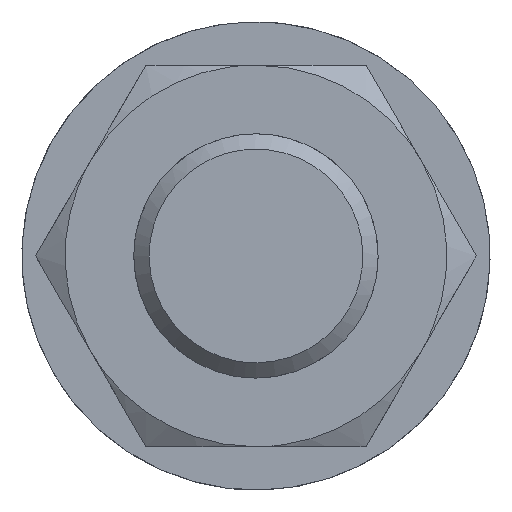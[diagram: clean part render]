
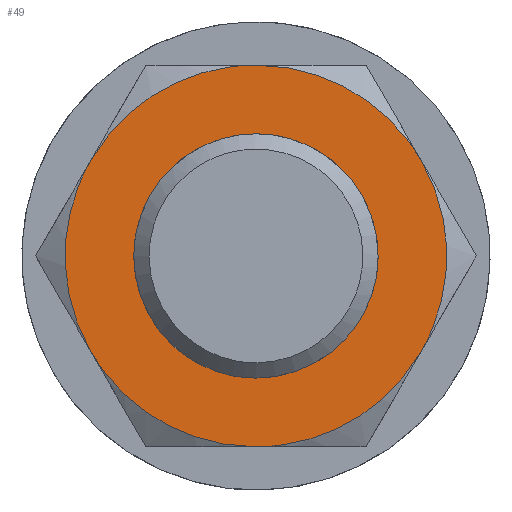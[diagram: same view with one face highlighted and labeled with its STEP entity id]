
A CAD part, left-side view. The second image highlights one B-rep face of the part: STEP entity #49.
In plain terms, the highlighted planar face has unit normal (-1, 0, 0).
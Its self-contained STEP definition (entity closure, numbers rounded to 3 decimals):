
#40=FACE_BOUND('',#138,.T.);
#49=ADVANCED_FACE('',(#92,#40),#663,.T.);
#92=FACE_OUTER_BOUND('',#137,.T.);
#137=EDGE_LOOP('',(#202,#203,#204,#205,#206,#207));
#138=EDGE_LOOP('',(#208,#209));
#202=ORIENTED_EDGE('',*,*,#405,.F.);
#203=ORIENTED_EDGE('',*,*,#407,.F.);
#204=ORIENTED_EDGE('',*,*,#408,.F.);
#205=ORIENTED_EDGE('',*,*,#406,.F.);
#206=ORIENTED_EDGE('',*,*,#404,.F.);
#207=ORIENTED_EDGE('',*,*,#403,.F.);
#208=ORIENTED_EDGE('',*,*,#393,.F.);
#209=ORIENTED_EDGE('',*,*,#391,.F.);
#391=EDGE_CURVE('',#608,#598,#518,.T.);
#393=EDGE_CURVE('',#598,#608,#519,.T.);
#403=EDGE_CURVE('',#602,#603,#527,.T.);
#404=EDGE_CURVE('',#603,#607,#528,.T.);
#405=EDGE_CURVE('',#604,#602,#529,.T.);
#406=EDGE_CURVE('',#607,#606,#530,.T.);
#407=EDGE_CURVE('',#605,#604,#531,.T.);
#408=EDGE_CURVE('',#606,#605,#532,.T.);
#518=(
BOUNDED_CURVE()
B_SPLINE_CURVE(2,(#1166,#1167,#1168,#1169,#1170),.UNSPECIFIED.,.F.,.F.)
B_SPLINE_CURVE_WITH_KNOTS((3,2,3),(75.398,113.097,150.796),
 .UNSPECIFIED.)
CURVE()
GEOMETRIC_REPRESENTATION_ITEM()
RATIONAL_B_SPLINE_CURVE((1.,0.707,1.,0.707,1.))
REPRESENTATION_ITEM('')
);
#519=(
BOUNDED_CURVE()
B_SPLINE_CURVE(2,(#1173,#1174,#1175,#1176,#1177),.UNSPECIFIED.,.F.,.F.)
B_SPLINE_CURVE_WITH_KNOTS((3,2,3),(0.,37.699,75.398),
 .UNSPECIFIED.)
CURVE()
GEOMETRIC_REPRESENTATION_ITEM()
RATIONAL_B_SPLINE_CURVE((1.,0.707,1.,0.707,1.))
REPRESENTATION_ITEM('')
);
#527=(
BOUNDED_CURVE()
B_SPLINE_CURVE(2,(#1215,#1216,#1217),.UNSPECIFIED.,.F.,.F.)
B_SPLINE_CURVE_WITH_KNOTS((3,3),(0.,39.27),.UNSPECIFIED.)
CURVE()
GEOMETRIC_REPRESENTATION_ITEM()
RATIONAL_B_SPLINE_CURVE((1.,0.866,1.))
REPRESENTATION_ITEM('')
);
#528=(
BOUNDED_CURVE()
B_SPLINE_CURVE(2,(#1218,#1219,#1220),.UNSPECIFIED.,.F.,.F.)
B_SPLINE_CURVE_WITH_KNOTS((3,3),(0.,39.27),.UNSPECIFIED.)
CURVE()
GEOMETRIC_REPRESENTATION_ITEM()
RATIONAL_B_SPLINE_CURVE((1.,0.866,1.))
REPRESENTATION_ITEM('')
);
#529=(
BOUNDED_CURVE()
B_SPLINE_CURVE(2,(#1221,#1222,#1223),.UNSPECIFIED.,.F.,.F.)
B_SPLINE_CURVE_WITH_KNOTS((3,3),(0.,39.27),.UNSPECIFIED.)
CURVE()
GEOMETRIC_REPRESENTATION_ITEM()
RATIONAL_B_SPLINE_CURVE((1.,0.866,1.))
REPRESENTATION_ITEM('')
);
#530=(
BOUNDED_CURVE()
B_SPLINE_CURVE(2,(#1224,#1225,#1226),.UNSPECIFIED.,.F.,.F.)
B_SPLINE_CURVE_WITH_KNOTS((3,3),(0.,39.27),.UNSPECIFIED.)
CURVE()
GEOMETRIC_REPRESENTATION_ITEM()
RATIONAL_B_SPLINE_CURVE((1.,0.866,1.))
REPRESENTATION_ITEM('')
);
#531=(
BOUNDED_CURVE()
B_SPLINE_CURVE(2,(#1227,#1228,#1229),.UNSPECIFIED.,.F.,.F.)
B_SPLINE_CURVE_WITH_KNOTS((3,3),(0.,39.27),.UNSPECIFIED.)
CURVE()
GEOMETRIC_REPRESENTATION_ITEM()
RATIONAL_B_SPLINE_CURVE((1.,0.866,1.))
REPRESENTATION_ITEM('')
);
#532=(
BOUNDED_CURVE()
B_SPLINE_CURVE(2,(#1230,#1231,#1232),.UNSPECIFIED.,.F.,.F.)
B_SPLINE_CURVE_WITH_KNOTS((3,3),(0.,39.27),.UNSPECIFIED.)
CURVE()
GEOMETRIC_REPRESENTATION_ITEM()
RATIONAL_B_SPLINE_CURVE((1.,0.866,1.))
REPRESENTATION_ITEM('')
);
#598=VERTEX_POINT('',#1134);
#602=VERTEX_POINT('',#1138);
#603=VERTEX_POINT('',#1139);
#604=VERTEX_POINT('',#1140);
#605=VERTEX_POINT('',#1141);
#606=VERTEX_POINT('',#1142);
#607=VERTEX_POINT('',#1143);
#608=VERTEX_POINT('',#1144);
#663=PLANE('',#777);
#777=AXIS2_PLACEMENT_3D('',#891,#803,$);
#803=DIRECTION('',(-1.,0.,0.));
#891=CARTESIAN_POINT('',(64.667,-52.082,45.12));
#1134=CARTESIAN_POINT('',(64.667,0.,-24.));
#1138=CARTESIAN_POINT('',(64.667,-32.476,18.75));
#1139=CARTESIAN_POINT('',(64.667,-32.476,-18.75));
#1140=CARTESIAN_POINT('',(64.667,0.,37.5));
#1141=CARTESIAN_POINT('',(64.667,32.476,18.75));
#1142=CARTESIAN_POINT('',(64.667,32.476,-18.75));
#1143=CARTESIAN_POINT('',(64.667,0.,-37.5));
#1144=CARTESIAN_POINT('',(64.667,0.,24.));
#1166=CARTESIAN_POINT('',(64.667,0.,24.));
#1167=CARTESIAN_POINT('',(64.667,24.,24.));
#1168=CARTESIAN_POINT('',(64.667,24.,0.));
#1169=CARTESIAN_POINT('',(64.667,24.,-24.));
#1170=CARTESIAN_POINT('',(64.667,0.,-24.));
#1173=CARTESIAN_POINT('',(64.667,0.,-24.));
#1174=CARTESIAN_POINT('',(64.667,-24.,-24.));
#1175=CARTESIAN_POINT('',(64.667,-24.,0.));
#1176=CARTESIAN_POINT('',(64.667,-24.,24.));
#1177=CARTESIAN_POINT('',(64.667,0.,24.));
#1215=CARTESIAN_POINT('',(64.667,-32.476,18.75));
#1216=CARTESIAN_POINT('',(64.667,-43.301,0.));
#1217=CARTESIAN_POINT('',(64.667,-32.476,-18.75));
#1218=CARTESIAN_POINT('',(64.667,-32.476,-18.75));
#1219=CARTESIAN_POINT('',(64.667,-21.651,-37.5));
#1220=CARTESIAN_POINT('',(64.667,0.,-37.5));
#1221=CARTESIAN_POINT('',(64.667,0.,37.5));
#1222=CARTESIAN_POINT('',(64.667,-21.651,37.5));
#1223=CARTESIAN_POINT('',(64.667,-32.476,18.75));
#1224=CARTESIAN_POINT('',(64.667,0.,-37.5));
#1225=CARTESIAN_POINT('',(64.667,21.651,-37.5));
#1226=CARTESIAN_POINT('',(64.667,32.476,-18.75));
#1227=CARTESIAN_POINT('',(64.667,32.476,18.75));
#1228=CARTESIAN_POINT('',(64.667,21.651,37.5));
#1229=CARTESIAN_POINT('',(64.667,0.,37.5));
#1230=CARTESIAN_POINT('',(64.667,32.476,-18.75));
#1231=CARTESIAN_POINT('',(64.667,43.301,0.));
#1232=CARTESIAN_POINT('',(64.667,32.476,18.75));
